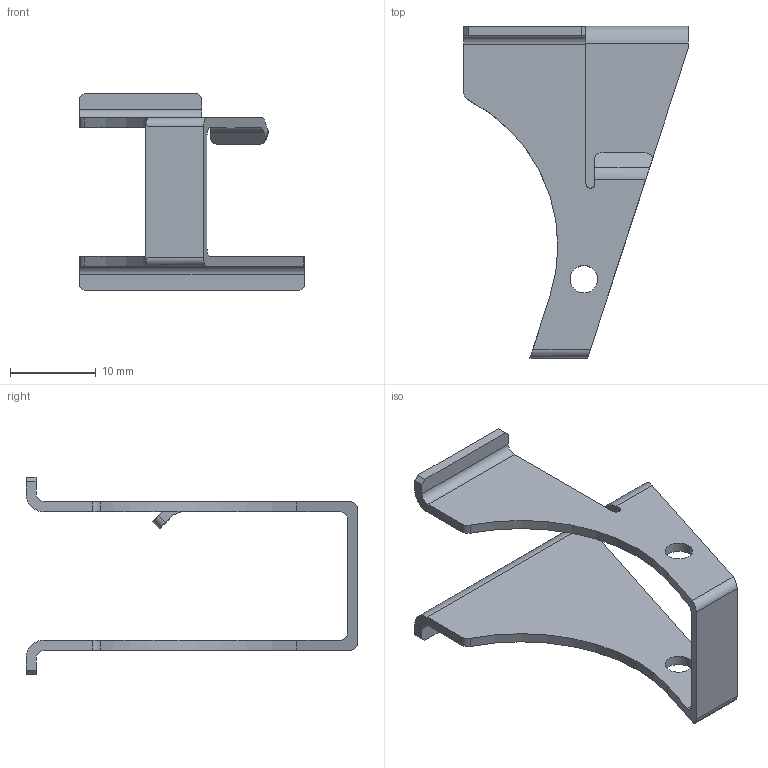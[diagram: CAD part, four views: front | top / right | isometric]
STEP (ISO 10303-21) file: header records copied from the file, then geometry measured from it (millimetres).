
FILE_DESCRIPTION(/* description */ (''),/* implementation_level */ '2;1');
FILE_NAME(/* name */ 'D:\~~GatCad\FMDA DD17.2\STEP\FMDA DDxx.2 Rear Rails.stp',/* time_stamp */ '2021-01-10T11:54:14-06:00',/* author */ ('johne'),/* organization */ (''),/* preprocessor_version */ 'ST-DEVELOPER v18',/* originating_system */ 'Autodesk Inventor 2020',/* authorisation */ '');
FILE_SCHEMA (('AUTOMOTIVE_DESIGN { 1 0 10303 214 3 1 1 }'));
Length unit declared in the file: millimetre
Products named in the file (1): Revised v2.0 rear rails - uniform profile - 45deg brace (2)
Bounding box: 26.17 x 38.66 x 23 mm (x, y, z)
Volume: 1275.8 mm3; surface area: 2507.7 mm2
Topology: 1 solids, 1 shells, 46 faces, 132 edges, 88 vertices
Faces by surface type: plane 26, cylinder 20
Full cylindrical faces by diameter (mm): 3.2 x2
Entity records: 1565 total; most frequent: CARTESIAN_POINT 267, DIRECTION 266, ORIENTED_EDGE 264, EDGE_CURVE 132, LINE 92, VECTOR 92, VERTEX_POINT 88, AXIS2_PLACEMENT_3D 87
